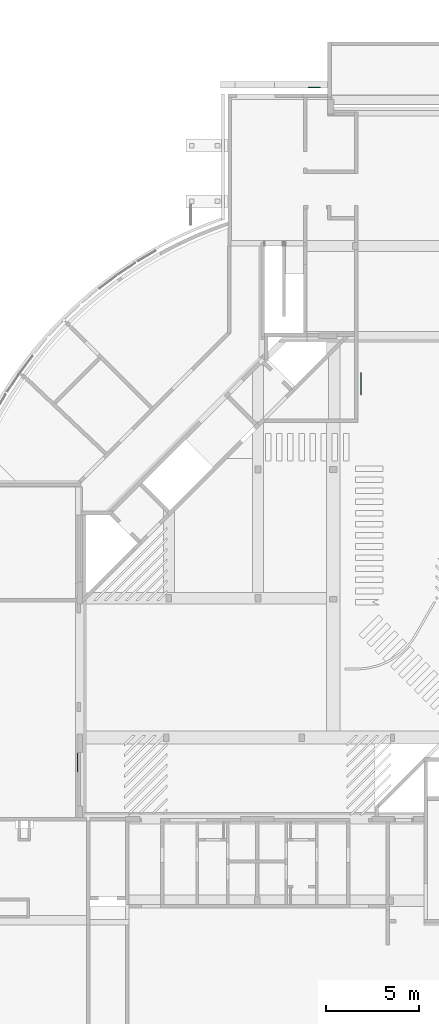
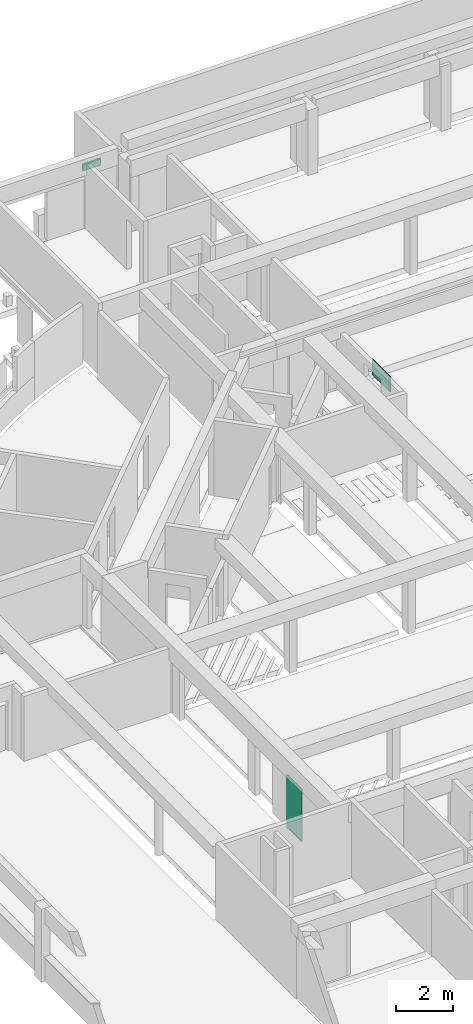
# One storey, part 22 of 22: 3 air terminals.
"""IFC4X3_ADD2 building model written with IfcOpenShell, lengths in millimetres."""

import ifcopenshell
import ifcopenshell.guid

model = None  # the IFC model being written
_history = None  # IfcOwnerHistory: only IFC2X3 demands one
_inside = {}  # id of a spatial element -> (the spatial element, [elements in it])
_under = {}  # id of a project, library or spatial element -> (it, [spatial elements below it])
_declared = {}  # id of a project -> (the project, [libraries it declares])
_typed = {}  # id of a type object -> (the type object, [elements of that type])
_made_of = {}  # id of a material, layer set ... -> (it, [elements and type objects made of it])


def new_model(schema):
    """Start an empty IFC model of exactly this schema.

    Asked for "IFC4X3", IfcOpenShell would pick the latest addendum, in which some entities
    have other attributes; the version numbers below select the first issue.
    IFC2X3 requires an IfcOwnerHistory on every rooted entity: one is made here for all.
    """
    global model, _history
    if schema == "IFC4X3":
        model = ifcopenshell.file(schema_version=(4, 3, 0, 0))
    else:
        model = ifcopenshell.file(schema=schema)
    _inside.clear()
    _under.clear()
    _declared.clear()
    _typed.clear()
    _made_of.clear()
    _history = None
    if model.schema == "IFC2X3":
        org = make("IfcOrganization", Name="unknown")
        user = make(
            "IfcPersonAndOrganization",
            ThePerson=make("IfcPerson", FamilyName="unknown"),
            TheOrganization=org,
        )
        app = make(
            "IfcApplication",
            ApplicationDeveloper=org,
            Version="unknown",
            ApplicationFullName="unknown",
            ApplicationIdentifier="unknown",
        )
        _history = make(
            "IfcOwnerHistory",
            OwningUser=user,
            OwningApplication=app,
            ChangeAction="ADDED",
            CreationDate=0,
        )
    return model


def make(cls, **values):
    """One entity of the class cls with the attributes given. An attribute that is None is left unset."""
    return model.create_entity(
        cls, **{name: value for name, value in values.items() if value is not None}
    )


def rooted(cls, **values):
    """An entity with a GlobalId (a new one), such as an element, a storey or a relation."""
    return make(cls, GlobalId=ifcopenshell.guid.new(), OwnerHistory=_history, **values)


def si_unit(unit_type, name, prefix=None):
    """IfcSIUnit, for example si_unit("LENGTHUNIT", "METRE", prefix="MILLI")."""
    return make("IfcSIUnit", UnitType=unit_type, Prefix=prefix, Name=name)


def assignment(units):
    """IfcUnitAssignment: the units of a project."""
    return None if units is None else make("IfcUnitAssignment", Units=units)


def point(xyz):
    """IfcCartesianPoint."""
    return None if xyz is None else make("IfcCartesianPoint", Coordinates=xyz)


def direction(xyz):
    """IfcDirection."""
    return None if xyz is None else make("IfcDirection", DirectionRatios=xyz)


def frame(location, z_axis=None, x_axis=None):
    """IfcAxis2Placement3D, a coordinate frame: its origin and axes. An axis left out is left unset."""
    return make(
        "IfcAxis2Placement3D",
        Location=point(location),
        Axis=direction(z_axis),
        RefDirection=direction(x_axis),
    )


def origin_with_axes():
    """The frame at (0, 0, 0) with the z axis (0, 0, 1) and the x axis (1, 0, 0) written out."""
    return frame((0.0, 0.0, 0.0), z_axis=(0.0, 0.0, 1.0), x_axis=(1.0, 0.0, 0.0))


def place(relative_to, where):
    """IfcLocalPlacement: puts the frame where relative to a parent placement (None: the world)."""
    return make(
        "IfcLocalPlacement", PlacementRelTo=relative_to, RelativePlacement=where
    )


def context(
    kind, dimensions, precision=None, world=None, true_north=None, identifier=None
):
    """IfcGeometricRepresentationContext, for example the 3D "Model" context."""
    return make(
        "IfcGeometricRepresentationContext",
        ContextIdentifier=identifier,
        ContextType=kind,
        CoordinateSpaceDimension=dimensions,
        Precision=precision,
        WorldCoordinateSystem=world,
        TrueNorth=true_north,
    )


def subcontext(parent, identifier, kind, view, scale=None):
    """IfcGeometricRepresentationSubContext, for example "Body" below "Model"."""
    return make(
        "IfcGeometricRepresentationSubContext",
        ContextIdentifier=identifier,
        ContextType=kind,
        ParentContext=parent,
        TargetScale=scale,
        TargetView=view,
    )


def project(units=None, contexts=None):
    """IfcProject with its units and contexts."""
    return rooted(
        "IfcProject",
        Name="project",
        RepresentationContexts=contexts,
        UnitsInContext=assignment(units),
    )


def spatial(cls, under=None, at=None, **own):
    """A site, building, storey or space (cls), placed at a placement, below another one or the project."""
    s = rooted(cls, ObjectPlacement=at, **own)
    if under is not None:
        _under.setdefault(under.id(), (under, []))[1].append(s)
    return s


def point_list(points):
    """IfcCartesianPointList2D or 3D."""
    cls = (
        "IfcCartesianPointList2D" if len(points[0]) == 2 else "IfcCartesianPointList3D"
    )
    return make(cls, CoordList=points)


def polygons(points, faces, closed=None, point_numbers=None):
    """IfcPolygonalFaceSet: a face is its outer loop, then its inner loops; points numbered from 1."""
    made = []
    for loops in faces:
        if len(loops) == 1:
            made.append(make("IfcIndexedPolygonalFace", CoordIndex=loops[0]))
        else:
            made.append(
                make(
                    "IfcIndexedPolygonalFaceWithVoids",
                    CoordIndex=loops[0],
                    InnerCoordIndices=loops[1:],
                )
            )
    return make(
        "IfcPolygonalFaceSet",
        Coordinates=point_list(points),
        Closed=closed,
        Faces=made,
        PnIndex=point_numbers,
    )


def shape(context_of_items, identifier, shape_type, items):
    """IfcShapeRepresentation: the items that make up one representation, for example the "Body"."""
    return make(
        "IfcShapeRepresentation",
        ContextOfItems=context_of_items,
        RepresentationIdentifier=identifier,
        RepresentationType=shape_type,
        Items=items,
    )


def source(mapping_origin, context_of_items, identifier, shape_type, items):
    """IfcRepresentationMap: a shape defined once, which mapped items show again and again."""
    return make(
        "IfcRepresentationMap",
        MappingOrigin=mapping_origin,
        MappedRepresentation=shape(context_of_items, identifier, shape_type, items),
    )


def transform(
    local_origin,
    x_axis=None,
    y_axis=None,
    z_axis=None,
    scale=None,
    scale2=None,
    scale3=None,
    uniform=True,
):
    """IfcCartesianTransformationOperator3D, or its non-uniform kind. x_axis, y_axis, z_axis: its Axis1, 2, 3."""
    if uniform:
        return make(
            "IfcCartesianTransformationOperator3D",
            Axis1=direction(x_axis),
            Axis2=direction(y_axis),
            LocalOrigin=point(local_origin),
            Scale=scale,
            Axis3=direction(z_axis),
        )
    return make(
        "IfcCartesianTransformationOperator3DnonUniform",
        Axis1=direction(x_axis),
        Axis2=direction(y_axis),
        LocalOrigin=point(local_origin),
        Scale=scale,
        Axis3=direction(z_axis),
        Scale2=scale2,
        Scale3=scale3,
    )


def mapped(mapping_source, mapping_target):
    """IfcMappedItem: shows the shape of a source again, moved by a transform."""
    return make(
        "IfcMappedItem", MappingSource=mapping_source, MappingTarget=mapping_target
    )


def made_of(thing, what):
    """Note that an element or type object is made of a material, layer set ...; save() writes the relation."""
    if what is not None:
        _made_of.setdefault(what.id(), (what, []))[1].append(thing)
    return thing


def element(
    cls,
    number,
    at=None,
    inside=None,
    cuts=None,
    type_object=None,
    material=None,
    context=None,
    identifier="Body",
    shape_type=None,
    held_by="IfcProductDefinitionShape",
    body=None,
    shapes=None,
    **own,
):
    """One element of the class cls, such as IfcWall. Its Tag is "e" and its number.

    at: its placement. inside: the storey or other place that contains it. cuts: it is an
    opening in that element (IfcRelVoidsElement). A single representation is given by context,
    identifier, shape_type and body (its items); several are given by shapes. held_by: the class
    of the entity that holds the representations. save() writes the other relations.
    """
    e = rooted(cls, Tag="e%d" % number, ObjectPlacement=at, **own)
    if body is not None:
        shapes = [shape(context, identifier, shape_type, body)]
    if shapes is not None:
        e.Representation = make(held_by, Representations=shapes)
    if inside is not None:
        _inside.setdefault(inside.id(), (inside, []))[1].append(e)
    if cuts is not None:
        rooted(
            "IfcRelVoidsElement", RelatingBuildingElement=cuts, RelatedOpeningElement=e
        )
    if type_object is not None:
        _typed.setdefault(type_object.id(), (type_object, []))[1].append(e)
    return made_of(e, material)


def aggregate(whole, parts):
    """IfcRelAggregates: a whole, such as a stair, and the parts it consists of."""
    return rooted("IfcRelAggregates", RelatingObject=whole, RelatedObjects=parts)


def save(model, path):
    """Write the relations noted so far, then the file.

    IfcRelAggregates (storeys below a building ...), IfcRelContainedInSpatialStructure (elements
    in a storey), IfcRelDefinesByType, IfcRelAssociatesMaterial and IfcRelDeclares: one each for
    every whole, place, type object, material and project.
    """
    for whole, parts in _under.values():
        aggregate(whole, parts)
    for where, things in _inside.values():
        rooted(
            "IfcRelContainedInSpatialStructure",
            RelatedElements=things,
            RelatingStructure=where,
        )
    for kind, things in _typed.values():
        rooted("IfcRelDefinesByType", RelatedObjects=things, RelatingType=kind)
    for what, things in _made_of.values():
        rooted("IfcRelAssociatesMaterial", RelatedObjects=things, RelatingMaterial=what)
    for by, libraries in _declared.values():
        rooted("IfcRelDeclares", RelatingContext=by, RelatedDefinitions=libraries)
    model.write(path)


model = new_model("IFC4X3_ADD2")

# Units and contexts
model_context = context("Model", 3, precision=1e-05, world=origin_with_axes(), true_north=direction((0.0, 1.0)))
body_context = subcontext(model_context, "Body", "Model", "MODEL_VIEW")
ifc_project = project(units=[si_unit("LENGTHUNIT", "METRE", prefix="MILLI"), si_unit("AREAUNIT", "SQUARE_METRE"), si_unit("VOLUMEUNIT", "CUBIC_METRE"), si_unit("PLANEANGLEUNIT", "RADIAN"), si_unit("TIMEUNIT", "SECOND"), si_unit("MASSUNIT", "GRAM")], contexts=[model_context])

# Site, building, storey
site_placement = place(None, origin_with_axes())
site = spatial("IfcSite", under=ifc_project, at=site_placement, Name="Site", CompositionType="ELEMENT")
building_placement = place(site_placement, origin_with_axes())
building = spatial("IfcBuilding", under=site, at=building_placement, Name="IFC Building Story")
storey_placement = place(building_placement, frame((0.0, 0.0, -3240.0), z_axis=(0.0, 0.0, 1.0), x_axis=(1.0, 0.0, 0.0)))
storey = spatial("IfcBuildingStorey", under=building, at=storey_placement, Name="K10", Elevation=-3240.0)

# Air terminals
shared_shape_1 = source(origin_with_axes(), body_context, "Body", "Tessellation", [
    polygons([(1050.0, 50.0, 49.9999999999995), (49.9999999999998, 50.0000000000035, 49.9999999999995), (49.9999999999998, 50.0000000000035, 2250.0), (1050.0, 50.0, 2250.0), (1050.0, 10.0, 49.9999999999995), (1050.0, 10.0, 2250.0), (49.9999999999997, 10.0000000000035, 2250.0), (49.9999999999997, 10.0000000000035, 49.9999999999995)], [[[1, 2, 3, 4]], [[5, 6, 7, 8]], [[1, 4, 6, 5]], [[4, 3, 7, 6]], [[3, 2, 8, 7]], [[2, 1, 5, 8]]]),
    polygons([(1050.0, 50.0, 49.9999999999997), (1050.0, 0.0, 49.9999999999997), (1050.0, 0.0, 2250.0), (1050.0, 50.0, 2250.0), (1055.0, 5.0, 44.9999999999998), (1055.0, 50.0, 44.9999999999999), (1055.0, 50.0, 2255.0), (1055.0, 5.0, 2255.0), (1100.0, 0.0, 0.0), (1100.0, 5.0, 0.0), (1100.0, 5.0, 2300.0), (1100.0, 0.0, 2300.0), (49.9999999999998, 3.38395977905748e-12, 2250.0), (49.9999999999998, 50.0000000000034, 2250.0), (44.9999999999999, 50.0000000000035, 2255.0), (44.9999999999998, 5.00000000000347, 2255.0), (0.0, 5.0000000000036, 2300.0), (0.0, 3.58699736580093e-12, 2300.0), (49.9999999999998, 3.38395977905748e-12, 49.9999999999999), (49.9999999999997, 50.0000000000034, 49.9999999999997), (44.9999999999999, 50.0000000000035, 44.9999999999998), (44.9999999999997, 5.00000000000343, 44.9999999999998), (0.0, 5.0000000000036, 0.0), (0.0, 3.58699736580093e-12, 0.0)], [[[1, 2, 3, 4]], [[5, 6, 7, 8]], [[9, 10, 11, 12]], [[4, 3, 13, 14]], [[8, 7, 15, 16]], [[12, 11, 17, 18]], [[14, 13, 19, 20]], [[16, 15, 21, 22]], [[18, 17, 23, 24]], [[20, 19, 2, 1]], [[1, 4, 7]], [[1, 7, 6]], [[6, 21, 20]], [[6, 20, 1]], [[21, 15, 14]], [[21, 14, 20]], [[15, 7, 4]], [[15, 4, 14]], [[22, 21, 6, 5]], [[5, 8, 11]], [[5, 11, 10]], [[10, 23, 22]], [[10, 22, 5]], [[23, 17, 16]], [[23, 16, 22]], [[17, 11, 8]], [[17, 8, 16]], [[24, 23, 10, 9]], [[3, 2, 9]], [[3, 9, 12]], [[12, 18, 13]], [[12, 13, 3]], [[18, 24, 19]], [[18, 19, 13]], [[24, 9, 2]], [[24, 2, 19]]]),
])
air_terminal_1_placement = place(storey_placement, frame((-38810.0, 16200.0040658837, 0.0), z_axis=(0.0, 0.0, 1.0), x_axis=(0.0, -1.0, 0.0)))
element("IfcAirTerminal", 1, at=air_terminal_1_placement, inside=storey, Name="BB_07.14.11#01_Buitenrooster_GMO:1000 x 2200 mm", ObjectType="BB_07.14.11#01_Buitenrooster_GMO:1000 x 2200 mm", PredefinedType="GRILLE", context=body_context, shape_type="MappedRepresentation", body=[
    mapped(shared_shape_1, transform((0.0, 0.0, 0.0))),
])
shared_shape_2 = source(origin_with_axes(), body_context, "Body", "Tessellation", [
    polygons([(4.33146851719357e-12, 1250.0, 50.0), (50.0000000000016, 1250.0, 50.0), (50.0000000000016, 1250.0, 650.000000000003), (4.33146851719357e-12, 1250.0, 650.000000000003), (45.0000000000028, 1255.00000000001, 45.0), (40.0000000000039, 1255.0, 45.0), (4.33146851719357e-12, 1255.00000000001, 45.0), (4.33146851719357e-12, 1255.00000000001, 655.000000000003), (40.0000000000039, 1255.0, 655.000000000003), (45.0000000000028, 1255.00000000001, 655.000000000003), (50.000000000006, 1300.0, 0.0), (45.0000000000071, 1300.0, 0.0), (45.0000000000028, 1300.0, 700.000000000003), (50.0000000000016, 1300.0, 700.000000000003), (49.9999999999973, 50.0000000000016, 650.000000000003), (-4.33146851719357e-12, 50.0000000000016, 650.000000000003), (0.0, 45.0000000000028, 655.000000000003), (39.9999999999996, 44.9999999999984, 655.000000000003), (44.9999999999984, 45.0000000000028, 655.000000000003), (44.9999999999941, 0.0, 700.000000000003), (49.9999999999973, 0.0, 700.000000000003), (49.9999999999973, 50.0000000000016, 50.0), (-4.33146851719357e-12, 50.0000000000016, 50.0), (0.0, 45.0000000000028, 45.0), (40.0000000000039, 45.0000000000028, 45.0), (44.9999999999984, 45.0000000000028, 45.0), (44.9999999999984, 0.0, 0.0), (49.9999999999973, 0.0, 0.0)], [[[1, 2, 3, 4]], [[6, 7, 8]], [[6, 8, 9]], [[9, 10, 5]], [[9, 5, 6]], [[11, 12, 13, 14]], [[4, 3, 15, 16]], [[9, 8, 17]], [[9, 17, 18]], [[18, 19, 10]], [[18, 10, 9]], [[14, 13, 20, 21]], [[16, 15, 22, 23]], [[18, 17, 24]], [[18, 24, 25]], [[25, 26, 19]], [[25, 19, 18]], [[21, 20, 27, 28]], [[23, 22, 2, 1]], [[1, 4, 8]], [[1, 8, 7]], [[7, 24, 23]], [[7, 23, 1]], [[24, 17, 16]], [[24, 16, 23]], [[17, 8, 4]], [[17, 4, 16]], [[25, 24, 7]], [[25, 7, 6]], [[6, 5, 26]], [[6, 26, 25]], [[5, 10, 13]], [[5, 13, 12]], [[12, 27, 26]], [[12, 26, 5]], [[27, 20, 19]], [[27, 19, 26]], [[20, 13, 10]], [[20, 10, 19]], [[28, 27, 12, 11]], [[3, 2, 11]], [[3, 11, 14]], [[14, 21, 15]], [[14, 15, 3]], [[21, 28, 22]], [[21, 22, 15]], [[28, 11, 2]], [[28, 2, 22]]]),
    polygons([(4.33146851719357e-12, 1250.0, 50.0), (0.0, 50.0000000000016, 50.0), (0.0, 50.0000000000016, 650.000000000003), (4.33146851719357e-12, 1250.0, 650.000000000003), (40.0000000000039, 1250.0, 50.0), (40.0000000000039, 1250.0, 650.000000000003), (39.9999999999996, 50.0000000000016, 650.000000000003), (39.9999999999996, 50.0000000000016, 50.0)], [[[1, 2, 3, 4]], [[5, 6, 7, 8]], [[1, 4, 6, 5]], [[4, 3, 7, 6]], [[3, 2, 8, 7]], [[2, 1, 5, 8]]]),
])
air_terminal_2_placement = place(storey_placement, frame((-23515.0, 35419.9418414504, 1600.0), z_axis=(0.0, 0.0, 1.0), x_axis=(1.0, 0.0, 0.0)))
element("IfcAirTerminal", 2, at=air_terminal_2_placement, inside=storey, Name="BB_07.14.11#01_Buitenrooster_GMO:1200 x 600 mm", ObjectType="BB_07.14.11#01_Buitenrooster_GMO:1200 x 600 mm", PredefinedType="GRILLE", context=body_context, shape_type="MappedRepresentation", body=[
    mapped(shared_shape_2, transform((0.0, 0.0, 0.0))),
])
shared_shape_3 = source(origin_with_axes(), body_context, "Body", "Tessellation", [
    polygons([(720.0, 50.0, 50.0), (50.0, 50.0000000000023, 50.0), (50.0, 50.0000000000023, 300.000000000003), (720.0, 50.0, 300.000000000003), (720.0, 10.0, 50.0), (720.0, 10.0, 300.000000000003), (50.0, 10.0000000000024, 300.000000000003), (50.0, 10.0000000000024, 50.0)], [[[1, 2, 3, 4]], [[5, 6, 7, 8]], [[1, 4, 6, 5]], [[4, 3, 7, 6]], [[3, 2, 8, 7]], [[2, 1, 5, 8]]]),
    polygons([(720.0, 50.0, 50.0), (720.0, 0.0, 50.0), (720.0, 0.0, 300.000000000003), (720.0, 50.0, 300.000000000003), (725.0, 5.0, 45.0), (725.0, 50.0, 45.0), (725.0, 50.0, 305.000000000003), (725.0, 5.0, 305.000000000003), (770.0, 0.0, 0.0), (770.0, 5.0, 0.0), (770.0, 5.0, 350.000000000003), (770.0, 0.0, 350.000000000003), (50.0, 2.30109264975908e-12, 300.000000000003), (50.0, 50.0000000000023, 300.000000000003), (45.0, 50.0000000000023, 305.000000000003), (45.0, 5.00000000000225, 305.000000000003), (0.0, 5.00000000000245, 350.000000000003), (0.0, 2.43645104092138e-12, 350.000000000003), (50.0, 2.30109264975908e-12, 50.0), (50.0, 50.0000000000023, 50.0), (45.0, 50.0000000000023, 45.0), (45.0, 5.00000000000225, 45.0), (0.0, 5.00000000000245, 0.0), (0.0, 2.43645104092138e-12, 0.0)], [[[1, 2, 3, 4]], [[5, 6, 7, 8]], [[9, 10, 11, 12]], [[4, 3, 13, 14]], [[8, 7, 15, 16]], [[12, 11, 17, 18]], [[14, 13, 19, 20]], [[16, 15, 21, 22]], [[18, 17, 23, 24]], [[20, 19, 2, 1]], [[1, 4, 7]], [[1, 7, 6]], [[6, 21, 20]], [[6, 20, 1]], [[21, 15, 14]], [[21, 14, 20]], [[15, 7, 4]], [[15, 4, 14]], [[22, 21, 6, 5]], [[5, 8, 11]], [[5, 11, 10]], [[10, 23, 22]], [[10, 22, 5]], [[23, 17, 16]], [[23, 16, 22]], [[17, 11, 8]], [[17, 8, 16]], [[24, 23, 10, 9]], [[3, 2, 9]], [[3, 9, 12]], [[12, 18, 13]], [[12, 13, 3]], [[18, 24, 19]], [[18, 19, 13]], [[24, 9, 2]], [[24, 2, 19]]]),
])
air_terminal_3_placement = place(storey_placement, frame((-25625.0, 52065.0, 2020.0), z_axis=(0.0, 0.0, 1.0), x_axis=(-1.0, 0.0, 0.0)))
element("IfcAirTerminal", 3, at=air_terminal_3_placement, inside=storey, Name="BB_07.14.11#01_Buitenrooster_GMO:670 x 250 mm", ObjectType="BB_07.14.11#01_Buitenrooster_GMO:670 x 250 mm", PredefinedType="GRILLE", context=body_context, shape_type="MappedRepresentation", body=[
    mapped(shared_shape_3, transform((0.0, 0.0, 0.0))),
])

save(model, "model.ifc")
